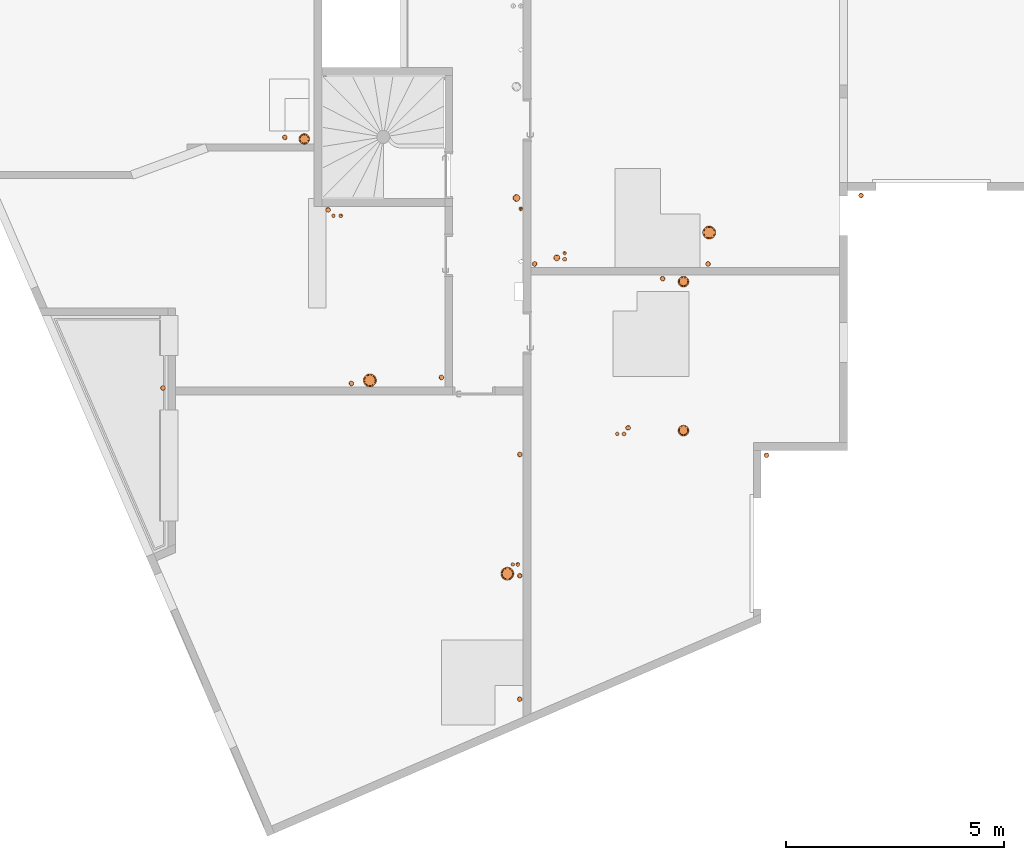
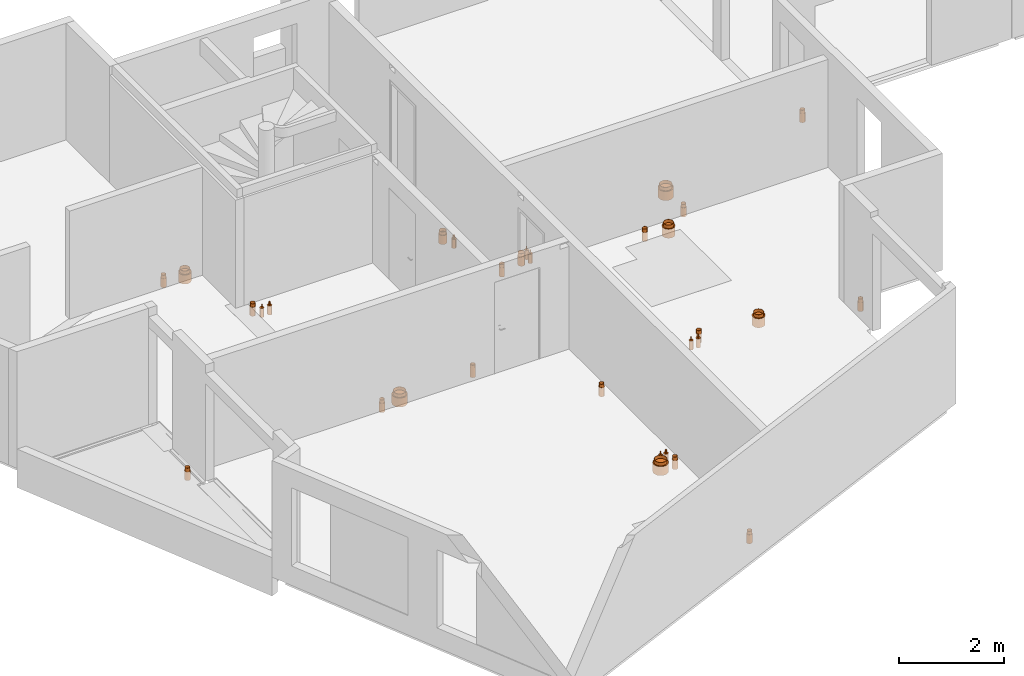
# One storey, part 24 of 30: 31 proxies.
"""IFC2X3 building model written with IfcOpenShell, lengths in centimetres."""

import ifcopenshell
import ifcopenshell.guid

model = None  # the IFC model being written
_history = None  # IfcOwnerHistory: only IFC2X3 demands one
_inside = {}  # id of a spatial element -> (the spatial element, [elements in it])
_under = {}  # id of a project, library or spatial element -> (it, [spatial elements below it])
_declared = {}  # id of a project -> (the project, [libraries it declares])
_typed = {}  # id of a type object -> (the type object, [elements of that type])
_made_of = {}  # id of a material, layer set ... -> (it, [elements and type objects made of it])


def new_model(schema):
    """Start an empty IFC model of exactly this schema.

    Asked for "IFC4X3", IfcOpenShell would pick the latest addendum, in which some entities
    have other attributes; the version numbers below select the first issue.
    IFC2X3 requires an IfcOwnerHistory on every rooted entity: one is made here for all.
    """
    global model, _history
    if schema == "IFC4X3":
        model = ifcopenshell.file(schema_version=(4, 3, 0, 0))
    else:
        model = ifcopenshell.file(schema=schema)
    _inside.clear()
    _under.clear()
    _declared.clear()
    _typed.clear()
    _made_of.clear()
    _history = None
    if model.schema == "IFC2X3":
        org = make("IfcOrganization", Name="unknown")
        user = make(
            "IfcPersonAndOrganization",
            ThePerson=make("IfcPerson", FamilyName="unknown"),
            TheOrganization=org,
        )
        app = make(
            "IfcApplication",
            ApplicationDeveloper=org,
            Version="unknown",
            ApplicationFullName="unknown",
            ApplicationIdentifier="unknown",
        )
        _history = make(
            "IfcOwnerHistory",
            OwningUser=user,
            OwningApplication=app,
            ChangeAction="ADDED",
            CreationDate=0,
        )
    return model


def make(cls, **values):
    """One entity of the class cls with the attributes given. An attribute that is None is left unset."""
    return model.create_entity(
        cls, **{name: value for name, value in values.items() if value is not None}
    )


def entity(cls, *values):
    """Any entity or typed value of the class cls, its attributes in the order of the schema. None: left unset."""
    e = model.create_entity(cls)
    for i, value in enumerate(values):
        if value is not None:
            e[i] = value
    return e


def rooted(cls, **values):
    """An entity with a GlobalId (a new one), such as an element, a storey or a relation."""
    return make(cls, GlobalId=ifcopenshell.guid.new(), OwnerHistory=_history, **values)


def si_unit(unit_type, name, prefix=None):
    """IfcSIUnit, for example si_unit("LENGTHUNIT", "METRE", prefix="MILLI")."""
    return make("IfcSIUnit", UnitType=unit_type, Prefix=prefix, Name=name)


def converted_unit(unit_type, name, factor, base, dimensions=None, offset=None):
    """IfcConversionBasedUnit, such as the inch: factor (a typed value) times the base unit."""
    return make(
        "IfcConversionBasedUnit"
        if offset is None
        else "IfcConversionBasedUnitWithOffset",
        ConversionOffset=offset,
        Dimensions=None
        if dimensions is None
        else entity("IfcDimensionalExponents", *dimensions),
        UnitType=unit_type,
        Name=name,
        ConversionFactor=make(
            "IfcMeasureWithUnit", ValueComponent=factor, UnitComponent=base
        ),
    )


def derived_unit(unit_type, elements):
    """IfcDerivedUnit: a product of units, each with its exponent."""
    return make(
        "IfcDerivedUnit",
        Elements=[
            make("IfcDerivedUnitElement", Unit=unit, Exponent=power)
            for unit, power in elements
        ],
        UnitType=unit_type,
    )


def assignment(units):
    """IfcUnitAssignment: the units of a project."""
    return None if units is None else make("IfcUnitAssignment", Units=units)


def point(xyz):
    """IfcCartesianPoint."""
    return None if xyz is None else make("IfcCartesianPoint", Coordinates=xyz)


def direction(xyz):
    """IfcDirection."""
    return None if xyz is None else make("IfcDirection", DirectionRatios=xyz)


def frame(location, z_axis=None, x_axis=None):
    """IfcAxis2Placement3D, a coordinate frame: its origin and axes. An axis left out is left unset."""
    return make(
        "IfcAxis2Placement3D",
        Location=point(location),
        Axis=direction(z_axis),
        RefDirection=direction(x_axis),
    )


def frame_2d(location, x_axis=None):
    """IfcAxis2Placement2D, a coordinate frame in the plane: its origin and x axis."""
    return make(
        "IfcAxis2Placement2D", Location=point(location), RefDirection=direction(x_axis)
    )


def origin():
    """The frame at (0, 0, 0) with its axes left unset."""
    return frame((0.0, 0.0, 0.0))


def place(relative_to, where):
    """IfcLocalPlacement: puts the frame where relative to a parent placement (None: the world)."""
    return make(
        "IfcLocalPlacement", PlacementRelTo=relative_to, RelativePlacement=where
    )


def context(
    kind, dimensions, precision=None, world=None, true_north=None, identifier=None
):
    """IfcGeometricRepresentationContext, for example the 3D "Model" context."""
    return make(
        "IfcGeometricRepresentationContext",
        ContextIdentifier=identifier,
        ContextType=kind,
        CoordinateSpaceDimension=dimensions,
        Precision=precision,
        WorldCoordinateSystem=world,
        TrueNorth=true_north,
    )


def subcontext(parent, identifier, kind, view, scale=None):
    """IfcGeometricRepresentationSubContext, for example "Body" below "Model"."""
    return make(
        "IfcGeometricRepresentationSubContext",
        ContextIdentifier=identifier,
        ContextType=kind,
        ParentContext=parent,
        TargetScale=scale,
        TargetView=view,
    )


def project(units=None, contexts=None):
    """IfcProject with its units and contexts."""
    return rooted(
        "IfcProject",
        Name="project",
        RepresentationContexts=contexts,
        UnitsInContext=assignment(units),
    )


def spatial(cls, under=None, at=None, **own):
    """A site, building, storey or space (cls), placed at a placement, below another one or the project."""
    s = rooted(cls, ObjectPlacement=at, **own)
    if under is not None:
        _under.setdefault(under.id(), (under, []))[1].append(s)
    return s


def profile(cls, at=None, kind="AREA", **sizes):
    """A parametric profile (cls). Its sizes go by their IFC names, for example OverallWidth=200.0."""
    return make(cls, ProfileType=kind, Position=at, **sizes)


def circle(**sizes):
    """IfcCircleProfileDef."""
    return profile("IfcCircleProfileDef", **sizes)


def hollow_circle(**sizes):
    """IfcCircleHollowProfileDef."""
    return profile("IfcCircleHollowProfileDef", **sizes)


def extrude(swept, where, along, depth):
    """IfcExtrudedAreaSolid: the profile swept, set in the frame where, extruded along a direction by depth."""
    return make(
        "IfcExtrudedAreaSolid",
        SweptArea=swept,
        Position=where,
        ExtrudedDirection=direction(along),
        Depth=depth,
    )


def shape(context_of_items, identifier, shape_type, items):
    """IfcShapeRepresentation: the items that make up one representation, for example the "Body"."""
    return make(
        "IfcShapeRepresentation",
        ContextOfItems=context_of_items,
        RepresentationIdentifier=identifier,
        RepresentationType=shape_type,
        Items=items,
    )


def source(mapping_origin, context_of_items, identifier, shape_type, items):
    """IfcRepresentationMap: a shape defined once, which mapped items show again and again."""
    return make(
        "IfcRepresentationMap",
        MappingOrigin=mapping_origin,
        MappedRepresentation=shape(context_of_items, identifier, shape_type, items),
    )


def transform(
    local_origin,
    x_axis=None,
    y_axis=None,
    z_axis=None,
    scale=None,
    scale2=None,
    scale3=None,
    uniform=True,
):
    """IfcCartesianTransformationOperator3D, or its non-uniform kind. x_axis, y_axis, z_axis: its Axis1, 2, 3."""
    if uniform:
        return make(
            "IfcCartesianTransformationOperator3D",
            Axis1=direction(x_axis),
            Axis2=direction(y_axis),
            LocalOrigin=point(local_origin),
            Scale=scale,
            Axis3=direction(z_axis),
        )
    return make(
        "IfcCartesianTransformationOperator3DnonUniform",
        Axis1=direction(x_axis),
        Axis2=direction(y_axis),
        LocalOrigin=point(local_origin),
        Scale=scale,
        Axis3=direction(z_axis),
        Scale2=scale2,
        Scale3=scale3,
    )


def mapped(mapping_source, mapping_target):
    """IfcMappedItem: shows the shape of a source again, moved by a transform."""
    return make(
        "IfcMappedItem", MappingSource=mapping_source, MappingTarget=mapping_target
    )


def material(Name=None, Category=None):
    """IfcMaterial."""
    return make("IfcMaterial", Name=Name, Category=Category)


def made_of(thing, what):
    """Note that an element or type object is made of a material, layer set ...; save() writes the relation."""
    if what is not None:
        _made_of.setdefault(what.id(), (what, []))[1].append(thing)
    return thing


def type_object(cls, material=None, **own):
    """A type object (cls), such as IfcWallType, which elements share."""
    return made_of(rooted(cls, **own), material)


def type_shapes(of_type, sources):
    """Give a type object the sources (RepresentationMaps) that its elements show as mapped items."""
    of_type.RepresentationMaps = sources


def element(
    cls,
    number,
    at=None,
    inside=None,
    cuts=None,
    type_object=None,
    material=None,
    context=None,
    identifier="Body",
    shape_type=None,
    held_by="IfcProductDefinitionShape",
    body=None,
    shapes=None,
    **own,
):
    """One element of the class cls, such as IfcWall. Its Tag is "e" and its number.

    at: its placement. inside: the storey or other place that contains it. cuts: it is an
    opening in that element (IfcRelVoidsElement). A single representation is given by context,
    identifier, shape_type and body (its items); several are given by shapes. held_by: the class
    of the entity that holds the representations. save() writes the other relations.
    """
    e = rooted(cls, Tag="e%d" % number, ObjectPlacement=at, **own)
    if body is not None:
        shapes = [shape(context, identifier, shape_type, body)]
    if shapes is not None:
        e.Representation = make(held_by, Representations=shapes)
    if inside is not None:
        _inside.setdefault(inside.id(), (inside, []))[1].append(e)
    if cuts is not None:
        rooted(
            "IfcRelVoidsElement", RelatingBuildingElement=cuts, RelatedOpeningElement=e
        )
    if type_object is not None:
        _typed.setdefault(type_object.id(), (type_object, []))[1].append(e)
    return made_of(e, material)


def aggregate(whole, parts):
    """IfcRelAggregates: a whole, such as a stair, and the parts it consists of."""
    return rooted("IfcRelAggregates", RelatingObject=whole, RelatedObjects=parts)


def save(model, path):
    """Write the relations noted so far, then the file.

    IfcRelAggregates (storeys below a building ...), IfcRelContainedInSpatialStructure (elements
    in a storey), IfcRelDefinesByType, IfcRelAssociatesMaterial and IfcRelDeclares: one each for
    every whole, place, type object, material and project.
    """
    for whole, parts in _under.values():
        aggregate(whole, parts)
    for where, things in _inside.values():
        rooted(
            "IfcRelContainedInSpatialStructure",
            RelatedElements=things,
            RelatingStructure=where,
        )
    for kind, things in _typed.values():
        rooted("IfcRelDefinesByType", RelatedObjects=things, RelatingType=kind)
    for what, things in _made_of.values():
        rooted("IfcRelAssociatesMaterial", RelatedObjects=things, RelatingMaterial=what)
    for by, libraries in _declared.values():
        rooted("IfcRelDeclares", RelatingContext=by, RelatedDefinitions=libraries)
    model.write(path)


model = new_model("IFC2X3")

# Units and contexts
model_context = context("Model", 3, precision=0.001, world=origin(), true_north=direction((6.12303176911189e-17, 1.0)))
body_context = subcontext(model_context, "Body", "Model", "MODEL_VIEW")
ifc_project = project(units=[si_unit("LENGTHUNIT", "METRE", prefix="CENTI"), si_unit("AREAUNIT", "SQUARE_METRE"), si_unit("VOLUMEUNIT", "CUBIC_METRE"), converted_unit("PLANEANGLEUNIT", "DEGREE", entity("IfcRatioMeasure", 0.0174532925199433), si_unit("PLANEANGLEUNIT", "RADIAN"), dimensions=[0, 0, 0, 0, 0, 0, 0]), si_unit("MASSUNIT", "GRAM", prefix="KILO"), derived_unit("MASSDENSITYUNIT", [(si_unit("MASSUNIT", "GRAM", prefix="KILO"), 1), (si_unit("LENGTHUNIT", "METRE"), -3)]), si_unit("TIMEUNIT", "SECOND"), si_unit("FREQUENCYUNIT", "HERTZ"), si_unit("THERMODYNAMICTEMPERATUREUNIT", "DEGREE_CELSIUS"), derived_unit("THERMALTRANSMITTANCEUNIT", [(si_unit("MASSUNIT", "GRAM", prefix="KILO"), 1), (si_unit("THERMODYNAMICTEMPERATUREUNIT", "KELVIN"), -1), (si_unit("TIMEUNIT", "SECOND"), -3)]), derived_unit("VOLUMETRICFLOWRATEUNIT", [(si_unit("LENGTHUNIT", "METRE"), 3), (si_unit("TIMEUNIT", "SECOND"), -1)]), si_unit("ELECTRICCURRENTUNIT", "AMPERE"), si_unit("ELECTRICVOLTAGEUNIT", "VOLT"), si_unit("POWERUNIT", "WATT"), si_unit("FORCEUNIT", "NEWTON"), si_unit("ILLUMINANCEUNIT", "LUX"), si_unit("LUMINOUSFLUXUNIT", "LUMEN"), si_unit("LUMINOUSINTENSITYUNIT", "CANDELA"), derived_unit("USERDEFINED", [(si_unit("MASSUNIT", "GRAM", prefix="KILO"), -1), (si_unit("LENGTHUNIT", "METRE"), -2), (si_unit("TIMEUNIT", "SECOND"), 3), (si_unit("LUMINOUSFLUXUNIT", "LUMEN"), 1)]), derived_unit("LINEARVELOCITYUNIT", [(si_unit("LENGTHUNIT", "METRE"), 1), (si_unit("TIMEUNIT", "SECOND"), -1)]), si_unit("PRESSUREUNIT", "PASCAL"), derived_unit("USERDEFINED", [(si_unit("LENGTHUNIT", "METRE"), -2), (si_unit("MASSUNIT", "GRAM", prefix="KILO"), 1), (si_unit("TIMEUNIT", "SECOND"), -2)])], contexts=[model_context])

# Site, building, storey
site_placement = place(None, origin())
site = spatial("IfcSite", under=ifc_project, at=site_placement, Name="Default", CompositionType="ELEMENT")
building_placement = place(site_placement, origin())
building = spatial("IfcBuilding", under=site, at=building_placement, Name="CAGE 03", CompositionType="ELEMENT")
storey_placement = place(building_placement, frame((0.0, 0.0, 610.0)))
storey = spatial("IfcBuildingStorey", under=building, at=storey_placement, Name="R+2", CompositionType="ELEMENT", Elevation=610.0)

# Proxies
ifc_material_1 = material(Name="Conduit VMC")
building_element_proxy_type_1 = type_object("IfcBuildingElementProxyType", Name="CFO235 P210", PredefinedType="NOTDEFINED", material=ifc_material_1)
shared_shape_1 = source(origin(), body_context, "Body", "SweptSolid", [
    extrude(circle(Radius=12.5, at=frame_2d((0.0, -2.01943071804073e-14), x_axis=(1.0, 0.0))), frame((0.0, 0.0, -21.0)), (0.0, 0.0, 1.0), 21.0),
    extrude(hollow_circle(Radius=10.0, WallThickness=0.5, at=frame_2d((0.0, -1.61554457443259e-14), x_axis=(1.0, 0.0))), frame((0.0, 0.0, -21.0)), (0.0, 0.0, 1.0), 28.5),
])
type_shapes(building_element_proxy_type_1, [shared_shape_1])
for number, where, name in (
    (1, (4502.05872684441, 4459.65163388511, -4.46999646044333e-07), "Galette - Résa - PVC1:CFO235 P210"),
    (2, (4502.05872684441, 4117.90353136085, -4.46999646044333e-07), "Galette - Résa - PVC1:CFO235 P210"),
    (3, (3632.02185080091, 4786.95104453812, -4.46999646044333e-07), "Galette - Résa - PVC1:CFO235 P210"),
):
    element("IfcBuildingElementProxy", number, at=place(storey_placement, frame(where)), inside=storey, type_object=building_element_proxy_type_1, material=ifc_material_1, Name=name, ObjectType="CFO235 P210", context=body_context, shape_type="MappedRepresentation", body=[
        mapped(shared_shape_1, transform((0.0, 0.0, 0.0), scale=1.0)),
    ])
building_element_proxy_type_2 = type_object("IfcBuildingElementProxyType", Name="CFO140 P135", PredefinedType="NOTDEFINED", material=ifc_material_1)
shared_shape_2 = source(origin(), body_context, "Body", "SweptSolid", [
    extrude(circle(Radius=7.0, at=frame_2d((0.0, -1.13088120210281e-14), x_axis=(1.0, 0.0))), frame((0.0, 0.0, -21.0)), (0.0, 0.0, 1.0), 21.0),
    extrude(hollow_circle(Radius=6.25, WallThickness=0.25, at=frame_2d((0.0, -1.00971535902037e-14), x_axis=(1.0, 0.0))), frame((0.0, 0.0, -21.0)), (0.0, 0.0, 1.0), 28.5),
])
type_shapes(building_element_proxy_type_2, [shared_shape_2])
proxy_1_placement = place(storey_placement, frame((4211.2793522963, 4514.26405606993, -4.46999646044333e-07)))
element("IfcBuildingElementProxy", 4, at=proxy_1_placement, inside=storey, type_object=building_element_proxy_type_2, material=ifc_material_1, Name="Galette - Résa - PVC1:CFO140 P135", ObjectType="CFO140 P135", context=body_context, shape_type="MappedRepresentation", body=[
    mapped(shared_shape_2, transform((0.0, 0.0, 0.0), scale=1.0)),
])
ifc_material_2 = material(Name="Conduit EU")
building_element_proxy_type_3 = type_object("IfcBuildingElementProxyType", Name="CFO125 P110", PredefinedType="NOTDEFINED", material=ifc_material_2)
shared_shape_3 = source(origin(), body_context, "Body", "SweptSolid", [
    extrude(circle(Radius=5.5, at=frame_2d((0.0, -8.88549515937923e-15), x_axis=(1.0, 0.0))), frame((0.0, 0.0, -21.0)), (0.0, 0.0, 1.0), 21.0),
    extrude(hollow_circle(Radius=5.0, WallThickness=0.25, at=frame_2d((0.0, -8.07772287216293e-15), x_axis=(1.0, 0.0))), frame((0.0, 0.0, -21.0)), (0.0, 0.0, 1.0), 28.5),
])
type_shapes(building_element_proxy_type_3, [shared_shape_3])
for number, where, name in (
    (5, (4126.59495990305, 3784.86941010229, -4.46999646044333e-07), "Galette - Résa - PVC1:CFO125 P110"),
    (6, (4160.6569914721, 4500.34430239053, -4.46999646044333e-07), "Galette - Résa - PVC1:CFO125 P110"),
    (7, (4558.36743500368, 4500.40173587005, -4.46999646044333e-07), "Galette - Résa - PVC1:CFO125 P110"),
    (8, (4454.09460730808, 4466.43426444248, -4.46999646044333e-07), "Galette - Résa - PVC1:CFO125 P110"),
    (9, (4126.31850092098, 3502.00058207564, -4.46999646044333e-07), "Galette - Résa - PVC1:CFO125 P110"),
    (10, (3739.92742510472, 4226.17996560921, -4.46999646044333e-07), "Galette - Résa - PVC1:CFO125 P110"),
    (11, (3946.58141975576, 4239.9111842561, -4.46999646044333e-07), "Galette - Résa - PVC1:CFO125 P110"),
    (12, (3587.36582014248, 4790.66275776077, -4.46999646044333e-07), "Galette - Résa - PVC1:CFO125 P110"),
    (13, (4126.59491931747, 4063.18336532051, -4.46999646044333e-07), "Galette - Résa - PVC1:CFO125 P110"),
):
    element("IfcBuildingElementProxy", number, at=place(storey_placement, frame(where)), inside=storey, type_object=building_element_proxy_type_3, material=ifc_material_2, Name=name, ObjectType="CFO125 P110", context=body_context, shape_type="MappedRepresentation", body=[
        mapped(shared_shape_3, transform((0.0, 0.0, 0.0), scale=1.0)),
    ])
proxy_2_placement = place(storey_placement, frame((4374.87721447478, 4124.41535228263, -4.4699953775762e-07), z_axis=(0.0, 0.0, 1.0), x_axis=(0.0, -1.0, 0.0)))
element("IfcBuildingElementProxy", 14, at=proxy_2_placement, inside=storey, type_object=building_element_proxy_type_3, material=ifc_material_2, Name="Galette - Résa - PVC1:CFO125 P110", ObjectType="CFO125 P110", context=body_context, shape_type="MappedRepresentation", body=[
    mapped(shared_shape_3, transform((0.0, 0.0, 0.0), scale=1.0)),
])
proxy_3_placement = place(storey_placement, frame((3686.59725003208, 4624.40274501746, -4.46999646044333e-07)))
element("IfcBuildingElementProxy", 15, at=proxy_3_placement, inside=storey, type_object=building_element_proxy_type_3, material=ifc_material_2, Name="Galette - Résa - PVC1:CFO125 P110", ObjectType="CFO125 P110", context=body_context, shape_type="MappedRepresentation", body=[
    mapped(shared_shape_3, transform((0.0, 0.0, 0.0), scale=1.0)),
])
ifc_material_3 = material(Name="Conduit EP")
building_element_proxy_type_4 = type_object("IfcBuildingElementProxyType", Name="EP 101", PredefinedType="NOTDEFINED", material=ifc_material_3)
shared_shape_4 = source(origin(), body_context, "Body", "SweptSolid", [
    extrude(circle(Radius=5.5, at=frame_2d((0.0, -8.88549515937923e-15), x_axis=(1.0, 0.0))), frame((0.0, 0.0, -21.0)), (0.0, 0.0, 1.0), 21.0),
    extrude(hollow_circle(Radius=5.0, WallThickness=0.25, at=frame_2d((0.0, -8.07772287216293e-15), x_axis=(1.0, 0.0))), frame((0.0, 0.0, -21.0)), (0.0, 0.0, 1.0), 28.5),
])
type_shapes(building_element_proxy_type_4, [shared_shape_4])
for number, where, name in (
    (16, (4692.5947420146, 4061.40163388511, -4.46999646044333e-07), "Galette - Résa - PVC1:EP 101"),
    (17, (4909.37146956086, 4657.40286438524, -4.46999646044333e-07), "Galette - Résa - PVC1:EP 101"),
    (18, (3307.8092427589, 4215.66383157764, -4.46999646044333e-07), "Galette - Résa - PVC1:EP 101"),
):
    element("IfcBuildingElementProxy", number, at=place(storey_placement, frame(where)), inside=storey, type_object=building_element_proxy_type_4, material=ifc_material_3, Name=name, ObjectType="EP 101", context=body_context, shape_type="MappedRepresentation", body=[
        mapped(shared_shape_4, transform((0.0, 0.0, 0.0), scale=1.0)),
    ])
building_element_proxy_type_5 = type_object("IfcBuildingElementProxyType", Name="CFO160 P150", PredefinedType="NOTDEFINED", material=ifc_material_3)
shared_shape_5 = source(origin(), body_context, "Body", "SweptSolid", [
    extrude(circle(Radius=8.0, at=frame_2d((0.0, -1.29243565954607e-14), x_axis=(1.0, 0.0))), frame((0.0, 0.0, -21.0)), (0.0, 0.0, 1.0), 21.0),
    extrude(hollow_circle(Radius=7.0, WallThickness=0.25, at=frame_2d((0.0, -1.13088120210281e-14), x_axis=(1.0, 0.0))), frame((0.0, 0.0, -21.0)), (0.0, 0.0, 1.0), 28.5),
])
type_shapes(building_element_proxy_type_5, [shared_shape_5])
proxy_4_placement = place(storey_placement, frame((4118.7448452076, 4651.62070743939, -4.46999646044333e-07)))
element("IfcBuildingElementProxy", 19, at=proxy_4_placement, inside=storey, type_object=building_element_proxy_type_5, material=ifc_material_3, Name="Galette - Résa - PVC1:CFO160 P150", ObjectType="CFO160 P150", context=body_context, shape_type="MappedRepresentation", body=[
    mapped(shared_shape_5, transform((0.0, 0.0, 0.0), scale=1.0)),
])
building_element_proxy_type_6 = type_object("IfcBuildingElementProxyType", Name="CFO285 P260", PredefinedType="NOTDEFINED", material=ifc_material_1)
shared_shape_6 = source(origin(), body_context, "Body", "SweptSolid", [
    extrude(circle(Radius=15.0, at=frame_2d((0.0, -2.42331686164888e-14), x_axis=(1.0, 0.0))), frame((0.0, 0.0, -21.0)), (0.0, 0.0, 1.0), 21.0),
    extrude(hollow_circle(Radius=12.5, WallThickness=0.499999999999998, at=frame_2d((0.0, -2.01943071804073e-14), x_axis=(1.0, 0.0))), frame((0.0, 0.0, -21.0)), (0.0, 0.0, 1.0), 28.5),
])
type_shapes(building_element_proxy_type_6, [shared_shape_6])
for number, where, name in (
    (20, (4097.97968134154, 3789.61941010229, -4.46999646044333e-07), "Galette - Résa - PVC1:CFO285 P260"),
    (21, (4561.07129081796, 4572.40431516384, -4.46999646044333e-07), "Galette - Résa - PVC1:CFO285 P260"),
    (22, (3782.56423441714, 4233.21735522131, -4.46999646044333e-07), "Galette - Résa - PVC1:CFO285 P260"),
):
    element("IfcBuildingElementProxy", number, at=place(storey_placement, frame(where)), inside=storey, type_object=building_element_proxy_type_6, material=ifc_material_1, Name=name, ObjectType="CFO285 P260", context=body_context, shape_type="MappedRepresentation", body=[
        mapped(shared_shape_6, transform((0.0, 0.0, 0.0), scale=1.0)),
    ])
ifc_material_4 = material(Name="Circuit ECS Aller")
building_element_proxy_type_7 = type_object("IfcBuildingElementProxyType", Name="CFO100 P90", PredefinedType="NOTDEFINED", material=ifc_material_4)
shared_shape_7 = source(origin(), body_context, "Body", "SweptSolid", [
    extrude(circle(Radius=4.5, at=frame_2d((0.0, -7.26995058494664e-15), x_axis=(1.0, 0.0))), frame((0.0, 0.0, -21.0)), (0.0, 0.0, 1.0), 21.0),
    extrude(hollow_circle(Radius=1.6, WallThickness=0.05, at=frame_2d((0.0, -2.58487131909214e-15), x_axis=(1.0, 0.0))), frame((0.0, 0.0, -21.0)), (0.0, 0.0, 1.0), 28.5),
])
type_shapes(building_element_proxy_type_7, [shared_shape_7])
proxy_5_placement = place(storey_placement, frame((4229.33361205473, 4511.12957820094, -4.46999646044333e-07)))
element("IfcBuildingElementProxy", 23, at=proxy_5_placement, inside=storey, type_object=building_element_proxy_type_7, material=ifc_material_4, Name="Galette - Résa - PVC1:CFO100 P90", ObjectType="CFO100 P90", context=body_context, shape_type="MappedRepresentation", body=[
    mapped(shared_shape_7, transform((0.0, 0.0, 0.0), scale=1.0)),
])
proxy_6_placement = place(storey_placement, frame((4121.86801673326, 3810.96567488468, -4.4699953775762e-07), z_axis=(0.0, 0.0, 1.0), x_axis=(0.0, -1.0, 0.0)))
element("IfcBuildingElementProxy", 24, at=proxy_6_placement, inside=storey, type_object=building_element_proxy_type_7, material=ifc_material_4, Name="Galette - Résa - PVC1:CFO100 P90", ObjectType="CFO100 P90", context=body_context, shape_type="MappedRepresentation", body=[
    mapped(shared_shape_7, transform((0.0, 0.0, 0.0), scale=1.0)),
])
for number, where, name in (
    (25, (4365.58327257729, 4110.509063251, -4.46999646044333e-07), "Galette - Résa - PVC1:CFO100 P90"),
    (26, (3715.82551820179, 4610.91348814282, -4.46999646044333e-07), "Galette - Résa - PVC1:CFO100 P90"),
):
    element("IfcBuildingElementProxy", number, at=place(storey_placement, frame(where)), inside=storey, type_object=building_element_proxy_type_7, material=ifc_material_4, Name=name, ObjectType="CFO100 P90", context=body_context, shape_type="MappedRepresentation", body=[
        mapped(shared_shape_7, transform((0.0, 0.0, 0.0), scale=1.0)),
    ])
ifc_material_5 = material(Name="Circuit ECS Retour")
building_element_proxy_type_8 = type_object("IfcBuildingElementProxyType", Name="CFO100 P80", PredefinedType="NOTDEFINED", material=ifc_material_5)
shared_shape_8 = source(origin(), body_context, "Body", "SweptSolid", [
    extrude(circle(Radius=4.0, at=frame_2d((0.0, -6.46217829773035e-15), x_axis=(1.0, 0.0))), frame((0.0, 0.0, -21.0)), (0.0, 0.0, 1.0), 21.0),
    extrude(hollow_circle(Radius=1.0, WallThickness=0.0500000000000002, at=frame_2d((0.0, -1.61554457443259e-15), x_axis=(1.0, 0.0))), frame((0.0, 0.0, -21.0)), (0.0, 0.0, 1.0), 28.5),
])
type_shapes(building_element_proxy_type_8, [shared_shape_8])
proxy_7_placement = place(storey_placement, frame((4229.33361205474, 4525.12957820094, -4.46999646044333e-07)))
element("IfcBuildingElementProxy", 27, at=proxy_7_placement, inside=storey, type_object=building_element_proxy_type_8, material=ifc_material_5, Name="Galette - Résa - PVC1:CFO100 P80", ObjectType="CFO100 P80", context=body_context, shape_type="MappedRepresentation", body=[
    mapped(shared_shape_8, transform((0.0, 0.0, 0.0), scale=1.0)),
])
proxy_8_placement = place(storey_placement, frame((4110.36801673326, 3810.96567488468, -4.4699953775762e-07), z_axis=(0.0, 0.0, 1.0), x_axis=(0.0, -1.0, 0.0)))
element("IfcBuildingElementProxy", 28, at=proxy_8_placement, inside=storey, type_object=building_element_proxy_type_8, material=ifc_material_5, Name="Galette - Résa - PVC1:CFO100 P80", ObjectType="CFO100 P80", context=body_context, shape_type="MappedRepresentation", body=[
    mapped(shared_shape_8, transform((0.0, 0.0, 0.0), scale=1.0)),
])
for number, where, name in (
    (29, (4350.08327257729, 4110.509063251, -4.46999646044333e-07), "Galette - Résa - PVC1:CFO100 P80"),
    (30, (3698.87015670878, 4610.91348814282, -4.46999646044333e-07), "Galette - Résa - PVC1:CFO100 P80"),
):
    element("IfcBuildingElementProxy", number, at=place(storey_placement, frame(where)), inside=storey, type_object=building_element_proxy_type_8, material=ifc_material_5, Name=name, ObjectType="CFO100 P80", context=body_context, shape_type="MappedRepresentation", body=[
        mapped(shared_shape_8, transform((0.0, 0.0, 0.0), scale=1.0)),
    ])
ifc_material_6 = material(Name="Circuit EF")
building_element_proxy_type_9 = type_object("IfcBuildingElementProxyType", Name="EF 41", PredefinedType="NOTDEFINED", material=ifc_material_6)
shared_shape_9 = source(origin(), body_context, "Body", "SweptSolid", [
    extrude(circle(Radius=4.5, at=frame_2d((0.0, -7.26995058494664e-15), x_axis=(1.0, 0.0))), frame((0.0, 0.0, -21.0)), (0.0, 0.0, 1.0), 21.0),
    extrude(hollow_circle(Radius=2.2, WallThickness=0.449999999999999, at=frame_2d((0.0, -3.55419806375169e-15), x_axis=(1.0, 0.0))), frame((0.0, 0.0, -21.0)), (0.0, 0.0, 1.0), 28.5),
])
type_shapes(building_element_proxy_type_9, [shared_shape_9])
proxy_9_placement = place(storey_placement, frame((4128.59495990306, 4626.63859506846, -4.46999646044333e-07)))
element("IfcBuildingElementProxy", 31, at=proxy_9_placement, inside=storey, type_object=building_element_proxy_type_9, material=ifc_material_6, Name="Galette - Résa - PVC1:EF 41", ObjectType="EF 41", context=body_context, shape_type="MappedRepresentation", body=[
    mapped(shared_shape_9, transform((0.0, 0.0, 0.0), scale=1.0)),
])

save(model, "model.ifc")
